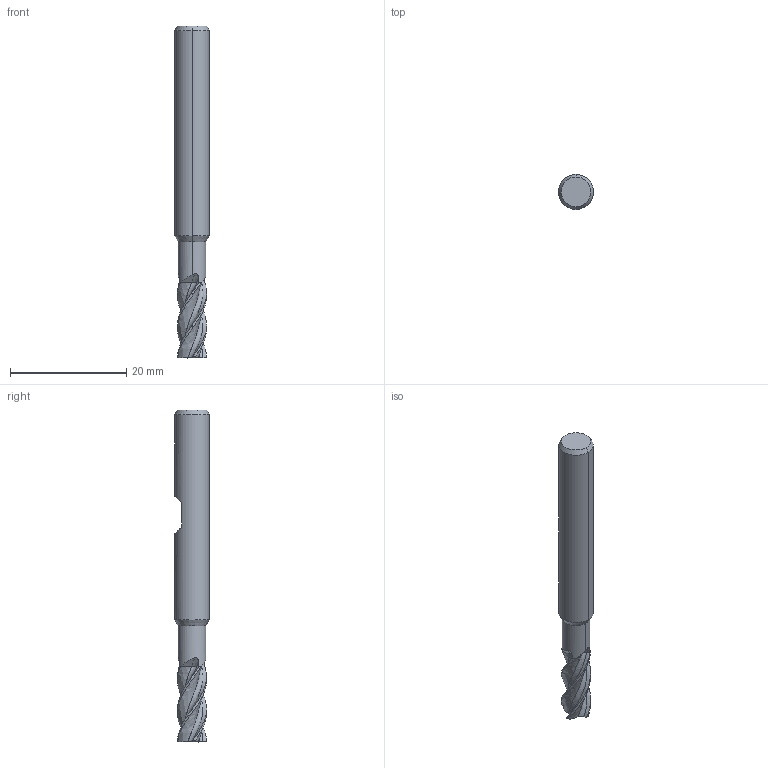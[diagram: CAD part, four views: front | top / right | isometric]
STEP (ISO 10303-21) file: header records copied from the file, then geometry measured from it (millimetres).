
FILE_DESCRIPTION(('no description'),'unknown implementation level');
FILE_NAME('solidVyAqOV0yKrhbHtyVrVwXxqJPRIQ_1.STP',' ',('CIMSOURCE GmbH'),('CADClick - KiM GmbH - www.kimweb.de'),'unknown preprocess','ACIS','unknown authorization');
FILE_SCHEMA(('automotive_design'));
Length unit declared in the file: millimetre
Products named in the file (2): NOCUT; CUT
Bounding box: 6 x 6 x 57 mm (x, y, z)
Volume: 1276.5 mm3; surface area: 1275.9 mm2
Topology: 2 solids, 2 shells, 125 faces, 348 edges, 226 vertices
Faces by surface type: bspline 48, plane 23, cone 20, cylinder 16, revolution 12, torus 6
Entity records: 19912 total; most frequent: CARTESIAN_POINT 13267, STYLED_ITEM 701, PRESENTATION_STYLE_ASSIGNMENT 701, COLOUR_RGB 701, ORIENTED_EDGE 696, DIRECTION 378, EDGE_CURVE 348, CURVE_STYLE 348
